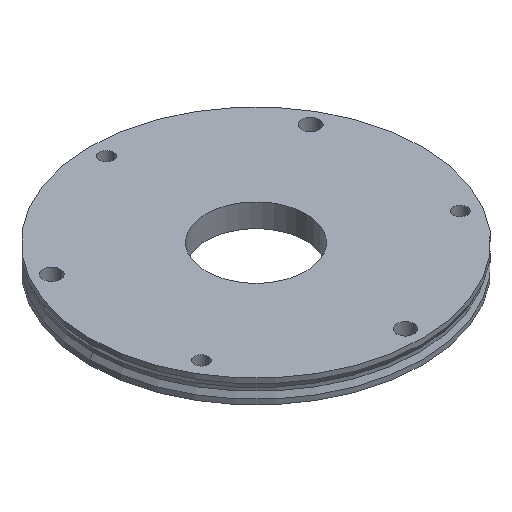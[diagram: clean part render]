
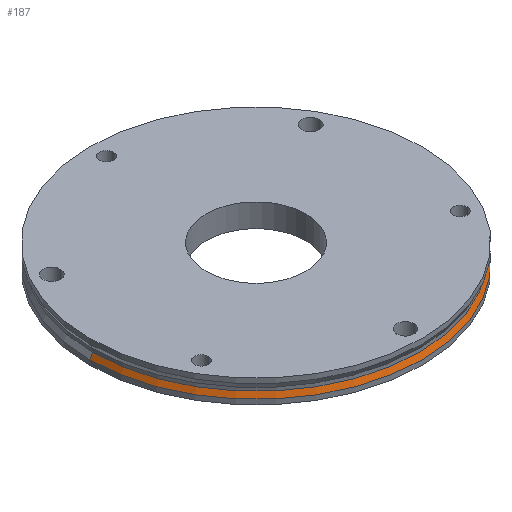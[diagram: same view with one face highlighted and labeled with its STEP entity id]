
A CAD part, isometric view. The second image highlights one B-rep face of the part: STEP entity #187.
In plain terms, the highlighted conical face has half-angle 27.5 degrees and reference radius 49.2 mm.
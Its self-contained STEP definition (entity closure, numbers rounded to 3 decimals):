
#16 = EDGE_CURVE ( 'NONE', #500, #443, #707, .T. ) ;
#35 = ORIENTED_EDGE ( 'NONE', *, *, #16, .T. ) ;
#36 = DIRECTION ( 'NONE',  ( 0., 0., -1. ) ) ;
#52 = DIRECTION ( 'NONE',  ( 0., 0., 1. ) ) ;
#59 = LINE ( 'NONE', #345, #706 ) ;
#147 = ORIENTED_EDGE ( 'NONE', *, *, #687, .F. ) ;
#165 = CARTESIAN_POINT ( 'NONE',  ( 0., 0., -4. ) ) ;
#187 = ADVANCED_FACE ( 'NONE', ( #815 ), #901, .T. ) ;
#196 = AXIS2_PLACEMENT_3D ( 'NONE', #165, #36, #449 ) ;
#213 = VERTEX_POINT ( 'NONE', #315 ) ;
#254 = ORIENTED_EDGE ( 'NONE', *, *, #433, .T. ) ;
#315 = CARTESIAN_POINT ( 'NONE',  ( 50., 0., -5.537 ) ) ;
#331 = DIRECTION ( 'NONE',  ( 1., 0., 0. ) ) ;
#339 = DIRECTION ( 'NONE',  ( -0.462, 0., -0.887 ) ) ;
#345 = CARTESIAN_POINT ( 'NONE',  ( 49.2, 0., -4. ) ) ;
#351 = DIRECTION ( 'NONE',  ( 0., 0., 1. ) ) ;
#398 = AXIS2_PLACEMENT_3D ( 'NONE', #715, #351, #604 ) ;
#417 = CARTESIAN_POINT ( 'NONE',  ( -49.2, 0., -4. ) ) ;
#433 = EDGE_CURVE ( 'NONE', #443, #213, #688, .T. ) ;
#443 = VERTEX_POINT ( 'NONE', #816 ) ;
#449 = DIRECTION ( 'NONE',  ( -1., 0., 0. ) ) ;
#500 = VERTEX_POINT ( 'NONE', #906 ) ;
#551 = DIRECTION ( 'NONE',  ( 0.462, 0., -0.887 ) ) ;
#561 = CARTESIAN_POINT ( 'NONE',  ( 0., 0., -4. ) ) ;
#566 = AXIS2_PLACEMENT_3D ( 'NONE', #561, #52, #331 ) ;
#604 = DIRECTION ( 'NONE',  ( 1., 0., 0. ) ) ;
#610 = CARTESIAN_POINT ( 'NONE',  ( 49.2, 0., -4. ) ) ;
#676 = VERTEX_POINT ( 'NONE', #610 ) ;
#687 = EDGE_CURVE ( 'NONE', #676, #213, #59, .T. ) ;
#688 = CIRCLE ( 'NONE', #398, 50. ) ;
#706 = VECTOR ( 'NONE', #551, 1000. ) ;
#707 = LINE ( 'NONE', #417, #750 ) ;
#710 = EDGE_CURVE ( 'NONE', #500, #676, #731, .T. ) ;
#715 = CARTESIAN_POINT ( 'NONE',  ( 0., 0., -5.537 ) ) ;
#731 = CIRCLE ( 'NONE', #566, 49.2 ) ;
#746 = EDGE_LOOP ( 'NONE', ( #147, #940, #35, #254 ) ) ;
#750 = VECTOR ( 'NONE', #339, 1000. ) ;
#815 = FACE_OUTER_BOUND ( 'NONE', #746, .T. ) ;
#816 = CARTESIAN_POINT ( 'NONE',  ( -50., 0., -5.537 ) ) ;
#901 = CONICAL_SURFACE ( 'NONE', #196, 49.2, 0.48 ) ;
#906 = CARTESIAN_POINT ( 'NONE',  ( -49.2, 0., -4. ) ) ;
#940 = ORIENTED_EDGE ( 'NONE', *, *, #710, .F. ) ;
